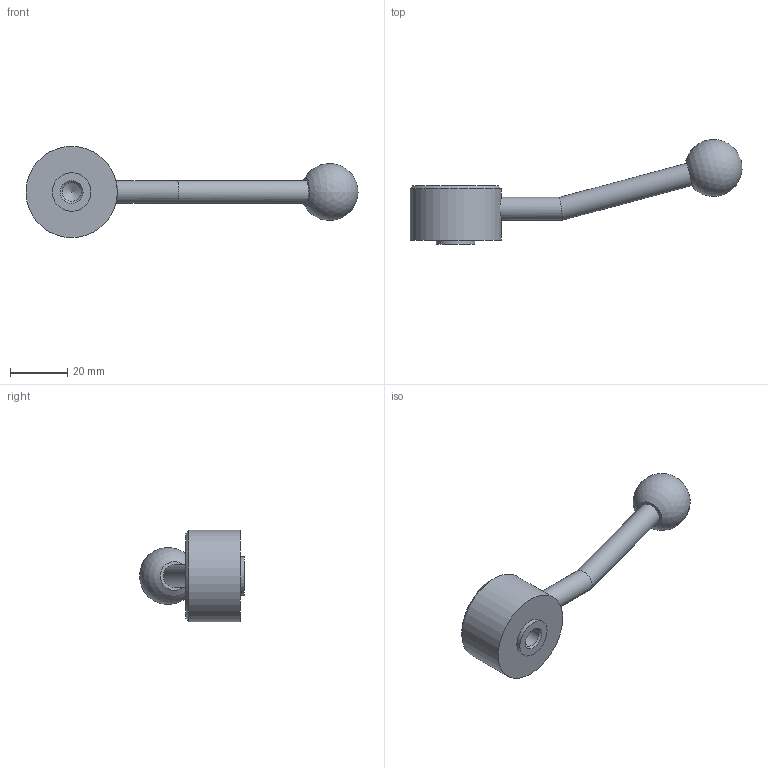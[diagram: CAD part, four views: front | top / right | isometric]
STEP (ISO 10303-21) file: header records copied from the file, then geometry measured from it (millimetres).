
FILE_DESCRIPTION( ( 'STEP AP203' ), '1' );
FILE_NAME( 'C:/Temp/Ganter_Step_05_03_2020/data/2_1/gn_125/gn_125_mb/gn_125_mb_e/Flat Adjustable Lever GN 125-32-M8-E.stp', '2020-03-05T11:00:41', ( 'License CC BY-ND 4.0' ), ( 'CADENAS' ), ' ', 'PARTsolutions', ' ' );
FILE_SCHEMA( ( 'CONFIG_CONTROL_DESIGN' ) );
Length unit declared in the file: millimetre
Products named in the file (1): _Flat Adjustable Lever GN 125-32-M8-E
Bounding box: 116.32 x 36.72 x 32 mm (x, y, z)
Volume: 22478.8 mm3; surface area: 6621.6 mm2
Topology: 1 solids, 1 shells, 15 faces, 28 edges, 18 vertices
Faces by surface type: cylinder 6, plane 5, cone 3, sphere 1
Full cylindrical faces by diameter (mm): 6.647 x1, 8 x2, 13.5 x1, 22 x1, 32 x1
Entity records: 408 total; most frequent: CARTESIAN_POINT 111, DIRECTION 58, AXIS2_PLACEMENT_3D 29, EDGE_LOOP 28, ORIENTED_EDGE 28, FACE_OUTER_BOUND 21, VERTEX_POINT 16, ADVANCED_FACE 15
